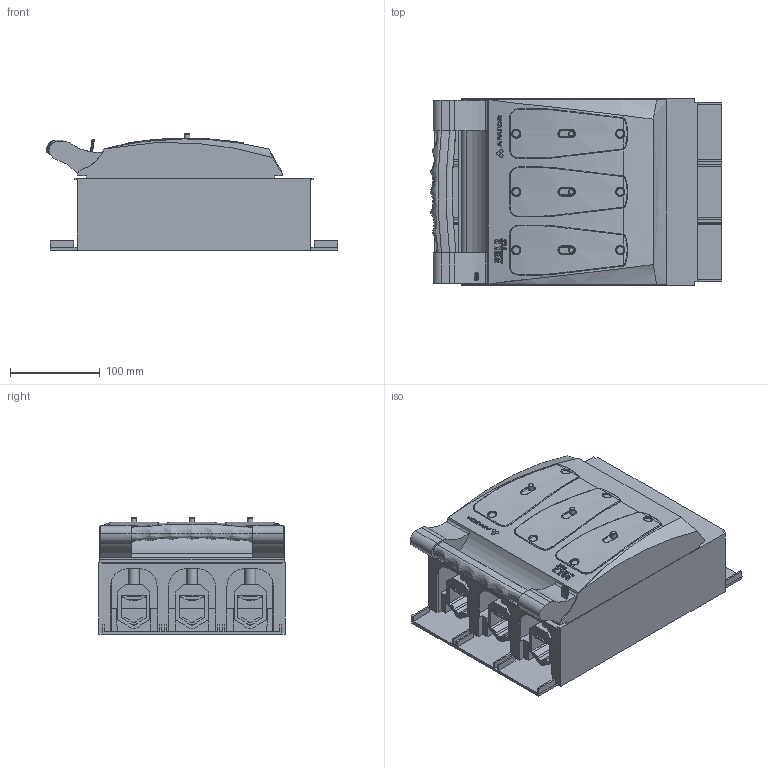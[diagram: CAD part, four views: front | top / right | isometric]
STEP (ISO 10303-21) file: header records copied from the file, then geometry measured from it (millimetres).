
FILE_DESCRIPTION(/* description */ (''),/* implementation_level */ '2;1');
FILE_NAME(/* name */ 'RBK 2 pro-V - 63-811685-071.stp',/* time_stamp */ '2019-03-11T12:21:48+01:00',/* author */ (''),/* organization */ (''),/* preprocessor_version */ 'ST-DEVELOPER v16',/* originating_system */ 'SIEMENS PLM Software NX 10.0',/* authorisation */ '');
FILE_SCHEMA (('AUTOMOTIVE_DESIGN { 1 0 10303 214 3 1 1 1 }'));
Products named in the file (1): 710_115086EF6xzq
Bounding box: 325.32 x 208 x 129.8 mm (x, y, z)
Volume: 5239952.1 mm3; surface area: 408739.7 mm2
Topology: 1 solids, 1 shells, 1768 faces, 4933 edges, 3190 vertices
Faces by surface type: plane 1233, bspline 265, cylinder 157, extrusion 95, cone 9, torus 9
Full cylindrical faces by diameter (mm): 6 x3
Entity records: 80731 total; most frequent: CARTESIAN_POINT 24933, ORIENTED_EDGE 9748, DIRECTION 8666, EDGE_CURVE 4874, VERTEX_POINT 3173, AXIS2_PLACEMENT_3D 3031, VECTOR 2604, LINE 2509
